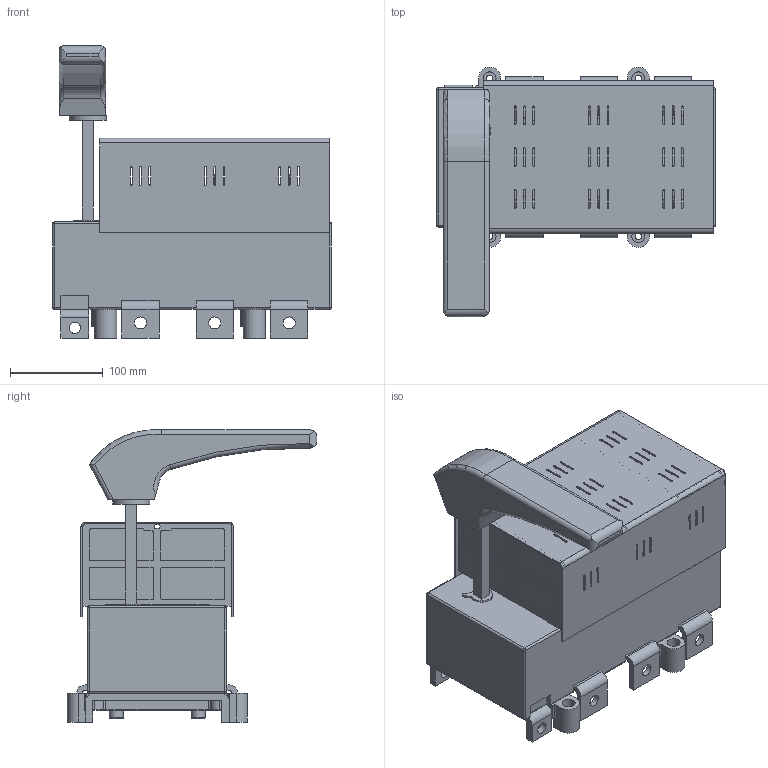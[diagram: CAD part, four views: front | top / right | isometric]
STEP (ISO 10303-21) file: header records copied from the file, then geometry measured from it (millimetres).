
FILE_DESCRIPTION(/* description */ (''),/* implementation_level */ '2;1');
FILE_NAME(/* name */ 'RAB 3 P3 N C-R.stp',/* time_stamp */ '2021-08-19T15:10:35+02:00',/* author */ (''),/* organization */ (''),/* preprocessor_version */ 'ST-DEVELOPER v18.1',/* originating_system */ 'SIEMENS PLM Software NX 1965',/* authorisation */ '');
FILE_SCHEMA (('AUTOMOTIVE_DESIGN { 1 0 10303 214 3 1 1 1 }'));
Length unit declared in the file: millimetre
Products named in the file (1): RAB 3 P3 N C-R_stp
Bounding box: 300 x 269 x 314.5 mm (x, y, z)
Volume: 4963632.8 mm3; surface area: 685460 mm2
Topology: 1 solids, 13 shells, 1615 faces, 4381 edges, 2808 vertices
Faces by surface type: plane 929, cylinder 570, torus 50, bspline 50, cone 8, sphere 8
Full cylindrical faces by diameter (mm): 3 x4, 4.8 x4, 5.2 x2, 5.6 x4, 6.5 x26, 7 x4, 10.5 x26, 12.5 x2, 13 x6, 13.5 x4, 14 x4, 15 x4, 40 x1
Entity records: 52767 total; most frequent: CARTESIAN_POINT 11864, DIRECTION 8466, ORIENTED_EDGE 8450, EDGE_CURVE 4225, LINE 2848, VECTOR 2848, AXIS2_PLACEMENT_3D 2809, VERTEX_POINT 2779
